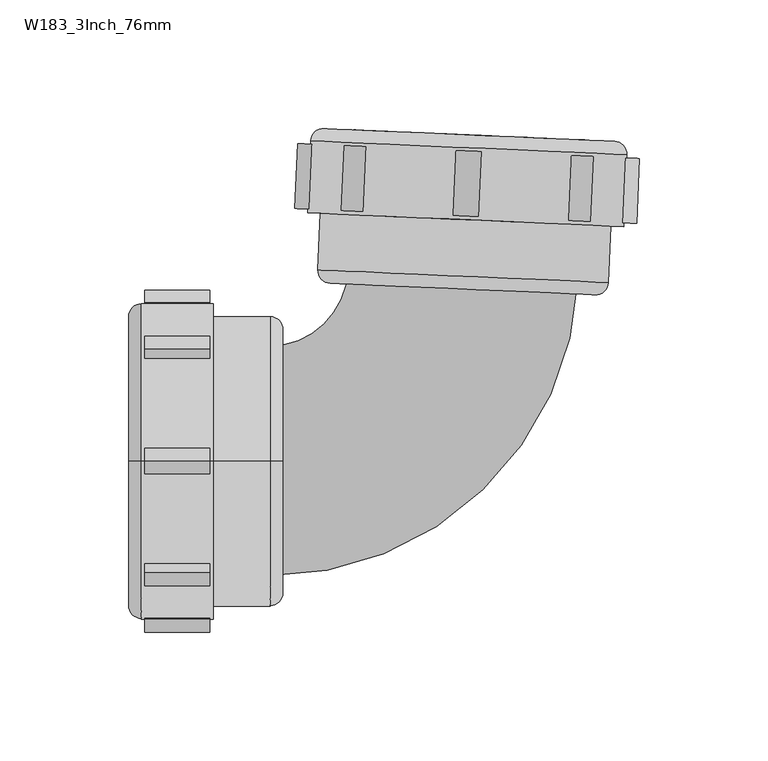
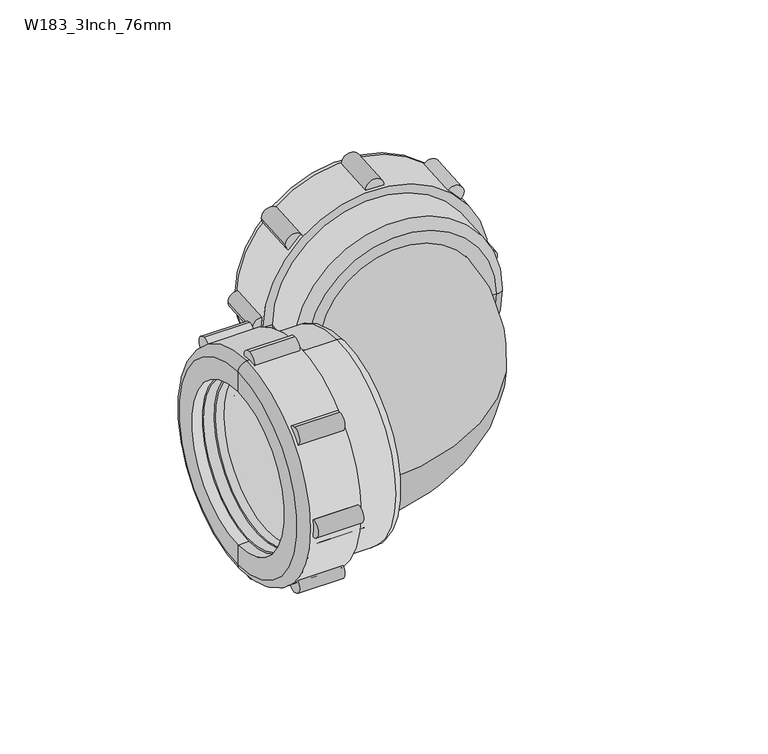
"""IFC4 building model written with IfcOpenShell, lengths in millimetres: pipe fitting geometry, Durapipe_PipeFitting_VulcatheneMechanical_92.5SweepBend_W18 : W183_3Inch_76mm."""

from ifc_helpers import new_model, si_unit, point, frame, frame_2d, origin, place, context, project, spatial, polyline, circle_curve, ellipse_curve, trimmed, segment, composite_curve, outline, extrude, source, transform, mapped, element, save
from ifc_brep_helpers import plane_surface, cylinder_surface, revolved_surface, advanced_brep


def w183_3inch_76mm_d3d50443(model_context):
    return source(origin(), model_context, "Body", "SolidModel", [
        advanced_brep(
        [(-30.6942453, 122.1178073, 35.9917352), (41.2207127, 118.9779325, -35.9917352), (36.5582498, 119.1815, -31.3248304), (-26.0317824, 121.9142398, 31.3248304), (-28.4714103, 101.7014168, 32.8804653), (37.2269305, 98.8329652, -32.8804653), (-29.5488092, 77.0249257, 32.8804653), (36.1495316, 74.1564742, -32.8804653), (-27.9946549, 76.9570698, 31.3248304), (34.5953773, 74.22433, -31.3248304), (-26.4985099, 111.2244238, 31.3248304), (36.0915223, 108.491684, -31.3248304), (-25.8627195, 111.1966646, 30.6884343), (35.4557319, 108.5194432, -30.6884343), (-26.2978607, 115.8200457, 31.3248304), (36.2921715, 113.0873058, -31.3248304), (35.6563811, 113.115065, -30.6884343), (-25.6620703, 115.7922864, 30.6884343)],
        [
            (0, 1, circle_curve(frame((5.2632337, 120.5478699, 0.0), z_axis=(0.043619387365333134, 0.9990482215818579, 0.0), x_axis=(0.7064337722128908, -0.030843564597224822, -0.7071067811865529)), 50.9)),
            (1, 2),
            (2, 3, circle_curve(frame((5.2632337, 120.5478699, 0.0), z_axis=(-0.043619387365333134, -0.9990482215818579, 0.0), x_axis=(0.7064337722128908, -0.030843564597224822, -0.7071067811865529)), 44.3)),
            (3, 0),
            (1, 0, circle_curve(frame((5.2632337, 120.5478699, 0.0), z_axis=(0.043619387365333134, 0.9990482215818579, 0.0), x_axis=(0.7064337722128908, -0.030843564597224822, -0.7071067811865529)), 50.9)),
            (3, 2, circle_curve(frame((5.2632337, 120.5478699, 0.0), z_axis=(-0.043619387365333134, -0.9990482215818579, 0.0), x_axis=(0.7064337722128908, -0.030843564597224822, -0.7071067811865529)), 44.3)),
            (0, 4),
            (4, 5, circle_curve(frame((4.3777601, 100.267191, 0.0), z_axis=(0.043619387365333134, 0.9990482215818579, 0.0), x_axis=(0.7064337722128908, -0.030843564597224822, -0.7071067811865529)), 46.5)),
            (5, 1),
            (5, 4, circle_curve(frame((4.3777601, 100.267191, 0.0), z_axis=(0.043619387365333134, 0.9990482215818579, 0.0), x_axis=(0.7064337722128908, -0.030843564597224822, -0.7071067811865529)), 46.5)),
            (6, 7, circle_curve(frame((3.3003612, 75.5906999, 0.0), z_axis=(0.043619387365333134, 0.9990482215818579, 0.0), x_axis=(0.7064337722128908, -0.030843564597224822, -0.7071067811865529)), 46.5)),
            (7, 5),
            (4, 6),
            (7, 6, circle_curve(frame((3.3003612, 75.5906999, 0.0), z_axis=(0.043619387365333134, 0.9990482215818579, 0.0), x_axis=(0.7064337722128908, -0.030843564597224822, -0.7071067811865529)), 46.5)),
            (6, 8),
            (8, 9, circle_curve(frame((3.3003612, 75.5906999, 0.0), z_axis=(0.043619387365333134, 0.9990482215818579, 0.0), x_axis=(0.7064337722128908, -0.030843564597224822, -0.7071067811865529)), 44.3)),
            (9, 7),
            (9, 8, circle_curve(frame((3.3003612, 75.5906999, 0.0), z_axis=(0.043619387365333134, 0.9990482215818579, 0.0), x_axis=(0.7064337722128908, -0.030843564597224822, -0.7071067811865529)), 44.3)),
            (8, 10),
            (10, 11, circle_curve(frame((4.7965062, 109.8580539, 0.0), z_axis=(0.043619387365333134, 0.9990482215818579, 0.0), x_axis=(0.7064337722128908, -0.030843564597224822, -0.7071067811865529)), 44.3)),
            (11, 9),
            (11, 10, circle_curve(frame((4.7965062, 109.8580539, 0.0), z_axis=(0.043619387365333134, 0.9990482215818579, 0.0), x_axis=(0.7064337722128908, -0.030843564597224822, -0.7071067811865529)), 44.3)),
            (10, 12),
            (12, 13, circle_curve(frame((4.7965062, 109.8580539, 0.0), z_axis=(0.043619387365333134, 0.9990482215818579, 0.0), x_axis=(0.7064337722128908, -0.030843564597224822, -0.7071067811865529)), 43.4)),
            (13, 11),
            (13, 12, circle_curve(frame((4.7965062, 109.8580539, 0.0), z_axis=(0.043619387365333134, 0.9990482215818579, 0.0), x_axis=(0.7064337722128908, -0.030843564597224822, -0.7071067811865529)), 43.4)),
            (14, 15, circle_curve(frame((4.9971554, 114.4536757, 0.0), z_axis=(0.043619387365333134, 0.9990482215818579, 0.0), x_axis=(0.7064337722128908, -0.030843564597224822, -0.7071067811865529)), 44.3)),
            (15, 16),
            (16, 17, circle_curve(frame((4.9971554, 114.4536757, 0.0), z_axis=(-0.043619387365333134, -0.9990482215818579, 0.0), x_axis=(0.7064337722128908, -0.030843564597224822, -0.7071067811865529)), 43.4)),
            (17, 14),
            (15, 14, circle_curve(frame((4.9971554, 114.4536757, 0.0), z_axis=(0.043619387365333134, 0.9990482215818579, 0.0), x_axis=(0.7064337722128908, -0.030843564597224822, -0.7071067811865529)), 44.3)),
            (17, 16, circle_curve(frame((4.9971554, 114.4536757, 0.0), z_axis=(-0.043619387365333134, -0.9990482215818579, 0.0), x_axis=(0.7064337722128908, -0.030843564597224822, -0.7071067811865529)), 43.4)),
            (2, 15),
            (14, 3),
            (12, 17),
            (16, 13),
        ],
        [
            plane_surface(frame((5.2632337, 120.5478699, 0.0), z_axis=(0.043619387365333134, 0.9990482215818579, 0.0), x_axis=(0.7064337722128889, -0.03084356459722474, -0.707106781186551))),
            revolved_surface(polyline([(41.2207127, 118.9779325, -35.9917352), (37.2269305, 98.8329652, -32.8804653)]), (5.4813306, 125.543111, 0.0), (-0.04361938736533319, -0.9990482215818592, 0.0)),
            cylinder_surface(frame((3.2100405, 73.522015, 0.0), z_axis=(-0.04361938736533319, -0.9990482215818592, 0.0), x_axis=(0.7064337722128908, -0.030843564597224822, -0.7071067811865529)), 46.5),
            plane_surface(frame((3.3003612, 75.5906999, 0.0), z_axis=(-0.043619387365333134, -0.9990482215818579, 0.0), x_axis=(0.7064337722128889, -0.03084356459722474, -0.707106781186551))),
            revolved_surface(polyline([(34.595377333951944, 74.2243299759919, -31.324830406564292), (36.091522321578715, 108.49168399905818, -31.324830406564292)]), (3.1479991, 72.1010335, 0.0), (-0.04361938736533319, -0.9990482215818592, 0.0)),
            plane_surface(frame((4.7965062, 109.8580539, 0.0), z_axis=(-0.043619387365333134, -0.9990482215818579, 0.0), x_axis=(0.7064337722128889, -0.03084356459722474, -0.707106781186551))),
            plane_surface(frame((4.9971554, 114.4536757, 0.0), z_axis=(0.043619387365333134, 0.9990482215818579, 0.0), x_axis=(0.7064337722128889, -0.03084356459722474, -0.707106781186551))),
            revolved_surface(polyline([(36.292171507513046, 113.0873057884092, -31.324830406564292), (36.55824977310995, 119.18150000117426, -31.324830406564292)]), (5.4813306, 125.543111, 0.0), (-0.04361938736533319, -0.9990482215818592, 0.0)),
            revolved_surface(polyline([(35.45573191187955, 108.51944319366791, -30.688434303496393), (35.65638109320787, 113.11506500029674, -30.688434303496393)]), (5.33155, 122.1125717, 0.0), (-0.04361938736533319, -0.9990482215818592, 0.0)),
        ],
        [
            (0, [[1, 2, 3, 4]]),
            (0, [[-2, 5, -4, 6]]),
            (1, [[-1, 7, 8, 9]]),
            (1, [[-5, -9, 10, -7]]),
            (2, [[11, 12, -8, 13]]),
            (2, [[-12, 14, -13, -10]]),
            (3, [[-11, 15, 16, 17]]),
            (3, [[-14, -17, 18, -15]]),
            (4, [[19, 20, 21, -16]]),
            (4, [[-19, -18, -21, 22]]),
            (5, [[-20, 23, 24, 25]]),
            (5, [[-22, -25, 26, -23]]),
            (6, [[27, 28, 29, 30]]),
            (6, [[31, -30, 32, -28]]),
            (7, [[-3, 33, -27, 34]]),
            (7, [[-6, -34, -31, -33]]),
            (8, [[35, -29, 36, -24]]),
            (8, [[-35, -26, -36, -32]]),
        ],
    ),
        advanced_brep(
        [(-57.3428696, 96.5558747, 0.0), (65.5400616, 91.1906901, 0.0), (66.7614045, 119.1640403, 0.0), (-56.1215268, 124.5292249, 0.0), (-52.3476285, 96.3377778, 0.0), (60.5448205, 91.408787, 0.0), (-50.9081887, 129.3063691, 0.0), (61.9842603, 124.3773783, 0.0), (50.4952058, 124.8790013, 0.0), (-39.4191342, 128.8047461, 0.0), (-47.6863221, 122.8596974, 0.0), (58.2127894, 118.2360424, 0.0), (56.1146969, 70.1818229, 0.0), (-49.7844146, 74.805478, 0.0), (-39.6939363, 122.5107423, 0.0), (50.2204036, 118.5849975, 0.0), (-53.307255, 74.3587169, 0.0), (59.585194, 69.4297261, 0.0), (-48.5301108, 69.1453788, 0.0), (54.371856, 64.6525819, 0.0), (2.9208726, 66.8989804, 0.0), (3.1651411, 72.4936504, 0.0)],
        [
            (0, 1, circle_curve(frame((4.098596, 93.8732824, 0.0), z_axis=(0.0436193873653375, 0.9990482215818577, 0.0), x_axis=(0.9990482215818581, -0.04361938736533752, 0.0)), 61.5)),
            (1, 2),
            (2, 3, circle_curve(frame((5.3199389, 121.8466326, 0.0), z_axis=(-0.0436193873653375, -0.9990482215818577, 0.0), x_axis=(0.9990482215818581, -0.04361938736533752, 0.0)), 61.5)),
            (3, 0),
            (1, 0, circle_curve(frame((4.098596, 93.8732824, 0.0), z_axis=(0.0436193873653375, 0.9990482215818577, 0.0), x_axis=(0.9990482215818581, -0.04361938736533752, 0.0)), 61.5)),
            (3, 2, circle_curve(frame((5.3199389, 121.8466326, 0.0), z_axis=(-0.0436193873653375, -0.9990482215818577, 0.0), x_axis=(0.9990482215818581, -0.04361938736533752, 0.0)), 61.5)),
            (4, 5, circle_curve(frame((4.098596, 93.8732824, 0.0), z_axis=(0.0436193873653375, 0.9990482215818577, 0.0), x_axis=(0.9990482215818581, -0.04361938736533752, 0.0)), 56.5)),
            (5, 1),
            (0, 4),
            (5, 4, circle_curve(frame((4.098596, 93.8732824, 0.0), z_axis=(0.0436193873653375, 0.9990482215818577, 0.0), x_axis=(0.9990482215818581, -0.04361938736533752, 0.0)), 56.5)),
            (6, 7, circle_curve(frame((5.5380358, 126.8418737, 0.0), z_axis=(0.0436193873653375, 0.9990482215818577, 0.0), x_axis=(0.9990482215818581, -0.04361938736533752, 0.0)), 56.5)),
            (7, 8),
            (8, 9, circle_curve(frame((5.5380358, 126.8418737, 0.0), z_axis=(-0.0436193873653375, -0.9990482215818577, 0.0), x_axis=(0.9990482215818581, -0.04361938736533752, 0.0)), 45.0)),
            (9, 6),
            (7, 6, circle_curve(frame((5.5380358, 126.8418737, 0.0), z_axis=(0.0436193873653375, 0.9990482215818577, 0.0), x_axis=(0.9990482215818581, -0.04361938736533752, 0.0)), 56.5)),
            (9, 8, circle_curve(frame((5.5380358, 126.8418737, 0.0), z_axis=(-0.0436193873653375, -0.9990482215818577, 0.0), x_axis=(0.9990482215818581, -0.04361938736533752, 0.0)), 45.0)),
            (2, 7, circle_curve(frame((61.7661634, 119.3821372, 0.0), z_axis=(0.0, 0.0, 1.0000000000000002), x_axis=(0.043619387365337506, 0.9990482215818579, 0.0)), 5.0)),
            (6, 3, circle_curve(frame((-51.1262857, 124.311128, 0.0), z_axis=(0.0, 0.0, 1.0000000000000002), x_axis=(0.043619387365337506, 0.9990482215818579, 0.0)), 5.0)),
            (10, 11, circle_curve(frame((5.2632337, 120.5478699, 0.0), z_axis=(0.0436193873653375, 0.9990482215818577, 0.0), x_axis=(0.9990482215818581, -0.04361938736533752, 0.0)), 53.0)),
            (11, 12),
            (12, 13, circle_curve(frame((3.1651411, 72.4936504, 0.0), z_axis=(-0.0436193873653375, -0.9990482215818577, 0.0), x_axis=(0.9990482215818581, -0.04361938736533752, 0.0)), 53.0)),
            (13, 10),
            (11, 10, circle_curve(frame((5.2632337, 120.5478699, 0.0), z_axis=(0.0436193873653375, 0.9990482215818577, 0.0), x_axis=(0.9990482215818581, -0.04361938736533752, 0.0)), 53.0)),
            (13, 12, circle_curve(frame((3.1651411, 72.4936504, 0.0), z_axis=(-0.0436193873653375, -0.9990482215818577, 0.0), x_axis=(0.9990482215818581, -0.04361938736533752, 0.0)), 53.0)),
            (14, 15, circle_curve(frame((5.2632337, 120.5478699, 0.0), z_axis=(0.0436193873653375, 0.9990482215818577, 0.0), x_axis=(0.9990482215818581, -0.04361938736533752, 0.0)), 45.0)),
            (15, 11),
            (10, 14),
            (15, 14, circle_curve(frame((5.2632337, 120.5478699, 0.0), z_axis=(0.0436193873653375, 0.9990482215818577, 0.0), x_axis=(0.9990482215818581, -0.04361938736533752, 0.0)), 45.0)),
            (8, 15),
            (14, 9),
            (16, 17, circle_curve(frame((3.1389695, 71.8942215, 0.0), z_axis=(0.0436193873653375, 0.9990482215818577, 0.0), x_axis=(0.9990482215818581, -0.04361938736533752, 0.0)), 56.5)),
            (17, 5),
            (4, 16),
            (17, 16, circle_curve(frame((3.1389695, 71.8942215, 0.0), z_axis=(0.0436193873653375, 0.9990482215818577, 0.0), x_axis=(0.9990482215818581, -0.04361938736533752, 0.0)), 56.5)),
            (18, 19, circle_curve(frame((2.9208726, 66.8989804, 0.0), z_axis=(0.0436193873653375, 0.9990482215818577, 0.0), x_axis=(0.9990482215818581, -0.04361938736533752, 0.0)), 51.5)),
            (19, 17, circle_curve(frame((54.5899529, 69.6478231, 0.0), z_axis=(0.0, 0.0, 1.0000000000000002), x_axis=(0.043619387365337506, 0.9990482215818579, 0.0)), 5.0)),
            (16, 18, circle_curve(frame((-48.3120139, 74.14062, 0.0), z_axis=(0.0, 0.0, 1.0000000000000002), x_axis=(0.043619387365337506, 0.9990482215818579, 0.0)), 5.0)),
            (19, 18, circle_curve(frame((2.9208726, 66.8989804, 0.0), z_axis=(0.0436193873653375, 0.9990482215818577, 0.0), x_axis=(0.9990482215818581, -0.04361938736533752, 0.0)), 51.5)),
            (20, 19),
            (18, 20),
            (12, 21),
            (21, 13),
        ],
        [
            cylinder_surface(frame((73.6192549, 1686.1581546, 0.0), z_axis=(-0.043619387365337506, -0.9990482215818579, 0.0), x_axis=(0.9990482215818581, -0.04361938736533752, 0.0)), 61.5),
            plane_surface(frame((4.098596, 93.8732824, 0.0), z_axis=(-0.0436193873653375, -0.9990482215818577, 0.0), x_axis=(0.9990482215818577, -0.0436193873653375, 0.0))),
            plane_surface(frame((5.5380358, 126.8418737, 0.0), z_axis=(0.0436193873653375, 0.9990482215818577, 0.0), x_axis=(0.9990482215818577, -0.0436193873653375, 0.0))),
            revolved_surface(trimmed(ellipse_curve(frame((61.7661634, 119.3821372, 0.0), z_axis=(0.0, 0.0, -1.0000000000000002), x_axis=(0.043619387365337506, 0.9990482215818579, 0.0)), 5.0, 5.0), [point((61.9842603, 124.3773783, 0.0))], [point((66.7614045, 119.1640403, 0.0))], True, "CARTESIAN"), (73.6192549, 1686.1581546, 0.0), (-0.043619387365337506, -0.9990482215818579, 0.0)),
            revolved_surface(polyline([(56.114696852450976, 70.18182286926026, 0.0), (58.21278938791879, 118.23604240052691, 0.0)]), (73.6192549, 1686.1581546, 0.0), (-0.043619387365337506, -0.9990482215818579, 0.0)),
            plane_surface(frame((5.2632337, 120.5478699, 0.0), z_axis=(-0.0436193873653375, -0.9990482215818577, 0.0), x_axis=(0.9990482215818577, -0.0436193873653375, 0.0))),
            revolved_surface(polyline([(50.220403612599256, 118.58499743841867, 0.0), (50.49520575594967, 124.87900130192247, 0.0)]), (73.6192549, 1686.1581546, 0.0), (-0.043619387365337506, -0.9990482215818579, 0.0)),
            cylinder_surface(frame((73.6192549, 1686.1581546, 0.0), z_axis=(-0.043619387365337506, -0.9990482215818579, 0.0), x_axis=(0.9990482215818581, -0.04361938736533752, 0.0)), 56.5),
            revolved_surface(trimmed(ellipse_curve(frame((54.5899529, 69.6478231, 0.0), z_axis=(0.0, 0.0, -1.0000000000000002), x_axis=(0.043619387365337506, 0.9990482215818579, 0.0)), 5.0, 5.0), [point((59.585194, 69.4297261, 0.0))], [point((54.371856, 64.6525819, 0.0))], True, "CARTESIAN"), (73.6192549, 1686.1581546, 0.0), (-0.043619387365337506, -0.9990482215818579, 0.0)),
            plane_surface(frame((2.9208726, 66.8989804, 0.0), z_axis=(-0.0436193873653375, -0.9990482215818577, 0.0), x_axis=(0.9990482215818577, -0.0436193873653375, 0.0))),
            plane_surface(frame((3.1651411, 72.4936504, 0.0), z_axis=(0.0436193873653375, 0.9990482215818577, 0.0), x_axis=(0.9990482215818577, -0.0436193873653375, 0.0))),
        ],
        [
            (0, [[1, 2, 3, 4]]),
            (0, [[5, -4, 6, -2]]),
            (1, [[7, 8, -1, 9]]),
            (1, [[10, -9, -5, -8]]),
            (2, [[11, 12, 13, 14]]),
            (2, [[15, -14, 16, -12]]),
            (3, [[-3, 17, -11, 18]]),
            (3, [[-6, -18, -15, -17]]),
            (4, [[19, 20, 21, 22]]),
            (4, [[23, -22, 24, -20]]),
            (5, [[25, 26, -19, 27]]),
            (5, [[28, -27, -23, -26]]),
            (6, [[-13, 29, -25, 30]]),
            (6, [[-16, -30, -28, -29]]),
            (7, [[31, 32, -7, 33]]),
            (7, [[34, -33, -10, -32]]),
            (8, [[35, 36, -31, 37]]),
            (8, [[38, -37, -34, -36]]),
            (9, [[39, -35, 40]]),
            (9, [[-40, -38, -39]]),
            (10, [[-21, 41, 42]]),
            (10, [[-24, -42, -41]]),
        ],
    ),
        extrude(outline(composite_curve([segment(trimmed(circle_curve(frame_2d((0.0, -5.0)), 5.0), [point((0.0, -10.0))], [point((0.0, 0.0))], False, "CARTESIAN"), True, "CONTINUOUS"), segment(trimmed(circle_curve(frame_2d((0.0, -5.0)), 5.0), [point((0.0, 0.0))], [point((0.0, -10.0))], False, "CARTESIAN"), True, "CONTINUOUS")], self_intersect=False)), frame((9.1592662, 95.1537578, -61.5), z_axis=(0.0436193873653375, 0.9990482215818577, 0.0), x_axis=(0.0, 0.0, 1.0)), (0.0, 0.0, 1.0), 25.2),
        extrude(outline(composite_curve([segment(trimmed(circle_curve(frame_2d((18.012933, 38.4870671)), 5.0), [point((18.012933, 33.4870671))], [point((18.012933, 43.4870671))], False, "CARTESIAN"), True, "CONTINUOUS"), segment(trimmed(circle_curve(frame_2d((18.012933, 38.4870671)), 5.0), [point((18.012933, 43.4870671))], [point((18.012933, 33.4870671))], False, "CARTESIAN"), True, "CONTINUOUS")], self_intersect=False)), frame((9.1592662, 95.1537578, -61.5), z_axis=(0.0436193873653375, 0.9990482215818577, 0.0), x_axis=(0.0, 0.0, 1.0)), (0.0, 0.0, 1.0), 25.2),
        extrude(outline(composite_curve([segment(trimmed(circle_curve(frame_2d((61.5, 56.5)), 5.0), [point((61.5, 51.5))], [point((61.5, 61.5))], False, "CARTESIAN"), True, "CONTINUOUS"), segment(trimmed(circle_curve(frame_2d((61.5, 56.5)), 5.0), [point((61.5, 61.5))], [point((61.5, 51.5))], False, "CARTESIAN"), True, "CONTINUOUS")], self_intersect=False)), frame((9.1592662, 95.1537578, -61.5), z_axis=(0.0436193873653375, 0.9990482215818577, 0.0), x_axis=(0.0, 0.0, 1.0)), (0.0, 0.0, 1.0), 25.2),
        extrude(outline(composite_curve([segment(trimmed(circle_curve(frame_2d((104.987067, 38.4870671)), 5.0), [point((104.987067, 33.4870671))], [point((104.987067, 43.4870671))], False, "CARTESIAN"), True, "CONTINUOUS"), segment(trimmed(circle_curve(frame_2d((104.987067, 38.4870671)), 5.0), [point((104.987067, 43.4870671))], [point((104.987067, 33.4870671))], False, "CARTESIAN"), True, "CONTINUOUS")], self_intersect=False)), frame((9.1592662, 95.1537578, -61.5), z_axis=(0.0436193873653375, 0.9990482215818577, 0.0), x_axis=(0.0, 0.0, 1.0)), (0.0, 0.0, 1.0), 25.2),
        extrude(outline(composite_curve([segment(trimmed(circle_curve(frame_2d((123.0, -5.0)), 5.0), [point((123.0, -10.0))], [point((123.0, 0.0))], False, "CARTESIAN"), True, "CONTINUOUS"), segment(trimmed(circle_curve(frame_2d((123.0, -5.0)), 5.0), [point((123.0, 0.0))], [point((123.0, -10.0))], False, "CARTESIAN"), True, "CONTINUOUS")], self_intersect=False)), frame((9.1592662, 95.1537578, -61.5), z_axis=(0.0436193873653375, 0.9990482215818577, 0.0), x_axis=(0.0, 0.0, 1.0)), (0.0, 0.0, 1.0), 25.2),
        extrude(outline(composite_curve([segment(trimmed(circle_curve(frame_2d((104.987067, -48.487067)), 5.0), [point((104.987067, -53.487067))], [point((104.987067, -43.4870671))], False, "CARTESIAN"), True, "CONTINUOUS"), segment(trimmed(circle_curve(frame_2d((104.987067, -48.487067)), 5.0), [point((104.987067, -43.4870671))], [point((104.987067, -53.487067))], False, "CARTESIAN"), True, "CONTINUOUS")], self_intersect=False)), frame((9.1592662, 95.1537578, -61.5), z_axis=(0.0436193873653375, 0.9990482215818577, 0.0), x_axis=(0.0, 0.0, 1.0)), (0.0, 0.0, 1.0), 25.2),
        extrude(outline(composite_curve([segment(trimmed(circle_curve(frame_2d((61.5, -66.5)), 5.0), [point((61.5, -71.5))], [point((61.5, -61.5))], False, "CARTESIAN"), True, "CONTINUOUS"), segment(trimmed(circle_curve(frame_2d((61.5, -66.5)), 5.0), [point((61.5, -61.5))], [point((61.5, -71.5))], False, "CARTESIAN"), True, "CONTINUOUS")], self_intersect=False)), frame((9.1592662, 95.1537578, -61.5), z_axis=(0.0436193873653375, 0.9990482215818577, 0.0), x_axis=(0.0, 0.0, 1.0)), (0.0, 0.0, 1.0), 25.2),
        extrude(outline(composite_curve([segment(trimmed(circle_curve(frame_2d((18.012933, -48.487067)), 5.0), [point((18.012933, -53.487067))], [point((18.012933, -43.4870671))], False, "CARTESIAN"), True, "CONTINUOUS"), segment(trimmed(circle_curve(frame_2d((18.012933, -48.487067)), 5.0), [point((18.012933, -43.4870671))], [point((18.012933, -53.487067))], False, "CARTESIAN"), True, "CONTINUOUS")], self_intersect=False)), frame((9.1592662, 95.1537578, -61.5), z_axis=(0.0436193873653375, 0.9990482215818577, 0.0), x_axis=(0.0, 0.0, 1.0)), (0.0, 0.0, 1.0), 25.2),
        advanced_brep(
        [(-120.6627141, -35.9917352, -35.9917352), (-120.6627141, 35.9917352, 35.9917352), (-120.6627141, 31.3248304, 31.3248304), (-120.6627141, -31.3248304, -31.3248304), (-100.3627141, -32.8804653, -32.8804653), (-100.3627141, 32.8804653, 32.8804653), (-75.6627141, -32.8804653, -32.8804653), (-75.6627141, 32.8804653, 32.8804653), (-75.6627141, -31.3248304, -31.3248304), (-75.6627141, 31.3248304, 31.3248304), (-109.9627141, -31.3248304, -31.3248304), (-109.9627141, 31.3248304, 31.3248304), (-109.9627141, -30.6884343, -30.6884343), (-109.9627141, 30.6884343, 30.6884343), (-114.5627141, -31.3248304, -31.3248304), (-114.5627141, 31.3248304, 31.3248304), (-114.5627141, 30.6884343, 30.6884343), (-114.5627141, -30.6884343, -30.6884343)],
        [
            (0, 1, circle_curve(frame((-120.6627141, 0.0, 0.0), z_axis=(-1.0, 0.0, 0.0), x_axis=(0.0, 0.7071067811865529, 0.7071067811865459)), 50.9)),
            (1, 2),
            (2, 3, circle_curve(frame((-120.6627141, 0.0, 0.0), z_axis=(1.0, 0.0, 0.0), x_axis=(0.0, 0.7071067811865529, 0.7071067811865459)), 44.3)),
            (3, 0),
            (1, 0, circle_curve(frame((-120.6627141, 0.0, 0.0), z_axis=(-1.0, 0.0, 0.0), x_axis=(0.0, 0.7071067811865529, 0.7071067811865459)), 50.9)),
            (3, 2, circle_curve(frame((-120.6627141, 0.0, 0.0), z_axis=(1.0, 0.0, 0.0), x_axis=(0.0, 0.7071067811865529, 0.7071067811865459)), 44.3)),
            (0, 4),
            (4, 5, circle_curve(frame((-100.3627141, 0.0, 0.0), z_axis=(-1.0, 0.0, 0.0), x_axis=(0.0, 0.7071067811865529, 0.7071067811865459)), 46.5)),
            (5, 1),
            (5, 4, circle_curve(frame((-100.3627141, 0.0, 0.0), z_axis=(-1.0, 0.0, 0.0), x_axis=(0.0, 0.7071067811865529, 0.7071067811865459)), 46.5)),
            (6, 7, circle_curve(frame((-75.6627141, 0.0, 0.0), z_axis=(-1.0, 0.0, 0.0), x_axis=(0.0, 0.7071067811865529, 0.7071067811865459)), 46.5)),
            (7, 5),
            (4, 6),
            (7, 6, circle_curve(frame((-75.6627141, 0.0, 0.0), z_axis=(-1.0, 0.0, 0.0), x_axis=(0.0, 0.7071067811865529, 0.7071067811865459)), 46.5)),
            (6, 8),
            (8, 9, circle_curve(frame((-75.6627141, 0.0, 0.0), z_axis=(-1.0, 0.0, 0.0), x_axis=(0.0, 0.7071067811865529, 0.7071067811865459)), 44.3)),
            (9, 7),
            (9, 8, circle_curve(frame((-75.6627141, 0.0, 0.0), z_axis=(-1.0, 0.0, 0.0), x_axis=(0.0, 0.7071067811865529, 0.7071067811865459)), 44.3)),
            (8, 10),
            (10, 11, circle_curve(frame((-109.9627141, 0.0, 0.0), z_axis=(-1.0, 0.0, 0.0), x_axis=(0.0, 0.7071067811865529, 0.7071067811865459)), 44.3)),
            (11, 9),
            (11, 10, circle_curve(frame((-109.9627141, 0.0, 0.0), z_axis=(-1.0, 0.0, 0.0), x_axis=(0.0, 0.7071067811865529, 0.7071067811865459)), 44.3)),
            (10, 12),
            (12, 13, circle_curve(frame((-109.9627141, 0.0, 0.0), z_axis=(-1.0, 0.0, 0.0), x_axis=(0.0, 0.7071067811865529, 0.7071067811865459)), 43.4)),
            (13, 11),
            (13, 12, circle_curve(frame((-109.9627141, 0.0, 0.0), z_axis=(-1.0, 0.0, 0.0), x_axis=(0.0, 0.7071067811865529, 0.7071067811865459)), 43.4)),
            (14, 15, circle_curve(frame((-114.5627141, 0.0, 0.0), z_axis=(-1.0, 0.0, 0.0), x_axis=(0.0, 0.7071067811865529, 0.7071067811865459)), 44.3)),
            (15, 16),
            (16, 17, circle_curve(frame((-114.5627141, 0.0, 0.0), z_axis=(1.0, 0.0, 0.0), x_axis=(0.0, 0.7071067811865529, 0.7071067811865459)), 43.4)),
            (17, 14),
            (15, 14, circle_curve(frame((-114.5627141, 0.0, 0.0), z_axis=(-1.0, 0.0, 0.0), x_axis=(0.0, 0.7071067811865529, 0.7071067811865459)), 44.3)),
            (17, 16, circle_curve(frame((-114.5627141, 0.0, 0.0), z_axis=(1.0, 0.0, 0.0), x_axis=(0.0, 0.7071067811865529, 0.7071067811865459)), 43.4)),
            (2, 15),
            (14, 3),
            (12, 17),
            (16, 13),
        ],
        [
            plane_surface(frame((-120.6627141, 0.0, 0.0), z_axis=(-1.0, 0.0, 0.0), x_axis=(0.0, 0.707106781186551, 0.707106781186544))),
            revolved_surface(polyline([(-120.6627141, 35.9917352, 35.9917352), (-100.3627141, 32.8804653, 32.8804653)]), (-125.6627141, 0.0, 0.0), (1.0000000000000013, 0.0, 0.0)),
            cylinder_surface(frame((-73.5920584, 0.0, 0.0), z_axis=(1.0000000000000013, 0.0, 0.0), x_axis=(0.0, 0.7071067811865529, 0.7071067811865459)), 46.5),
            plane_surface(frame((-75.6627141, 0.0, 0.0), z_axis=(1.0, 0.0, 0.0), x_axis=(0.0, 0.707106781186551, 0.707106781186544))),
            revolved_surface(polyline([(-75.66271410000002, 31.324830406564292, 31.324830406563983), (-109.9627141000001, 31.324830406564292, 31.324830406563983)]), (-72.1697231, 0.0, 0.0), (1.0000000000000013, 0.0, 0.0)),
            plane_surface(frame((-109.9627141, 0.0, 0.0), z_axis=(1.0, 0.0, 0.0), x_axis=(0.0, 0.707106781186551, 0.707106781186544))),
            plane_surface(frame((-114.5627141, 0.0, 0.0), z_axis=(-1.0, 0.0, 0.0), x_axis=(0.0, 0.707106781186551, 0.707106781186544))),
            revolved_surface(polyline([(-114.56271409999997, 31.324830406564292, 31.324830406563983), (-120.66271409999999, 31.324830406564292, 31.324830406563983)]), (-125.6627141, 0.0, 0.0), (1.0000000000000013, 0.0, 0.0)),
            revolved_surface(polyline([(-109.96271409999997, 30.688434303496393, 30.68843430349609), (-114.56271409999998, 30.688434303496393, 30.68843430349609)]), (-122.2289065, 0.0, 0.0), (1.0000000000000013, 0.0, 0.0)),
        ],
        [
            (0, [[1, 2, 3, 4]]),
            (0, [[-2, 5, -4, 6]]),
            (1, [[-1, 7, 8, 9]]),
            (1, [[-5, -9, 10, -7]]),
            (2, [[11, 12, -8, 13]]),
            (2, [[-12, 14, -13, -10]]),
            (3, [[-11, 15, 16, 17]]),
            (3, [[-14, -17, 18, -15]]),
            (4, [[19, 20, 21, -16]]),
            (4, [[-19, -18, -21, 22]]),
            (5, [[-20, 23, 24, 25]]),
            (5, [[-22, -25, 26, -23]]),
            (6, [[27, 28, 29, 30]]),
            (6, [[31, -30, 32, -28]]),
            (7, [[-3, 33, -27, 34]]),
            (7, [[-6, -34, -31, -33]]),
            (8, [[35, -29, 36, -24]]),
            (8, [[-35, -26, -36, -32]]),
        ],
    ),
        advanced_brep(
        [(-93.9627141, 0.0, -61.5), (-93.9627141, 0.0, 61.5), (-121.9627141, 0.0, 61.5), (-121.9627141, 0.0, -61.5), (-93.9627141, 0.0, -56.5), (-93.9627141, 0.0, 56.5), (-126.9627141, 0.0, -56.5), (-126.9627141, 0.0, 56.5), (-126.9627141, 0.0, 45.0), (-126.9627141, 0.0, -45.0), (-120.6627141, 0.0, -53.0), (-120.6627141, 0.0, 53.0), (-72.5627141, 0.0, 53.0), (-72.5627141, 0.0, -53.0), (-120.6627141, 0.0, -45.0), (-120.6627141, 0.0, 45.0), (-71.9627141, 0.0, -56.5), (-71.9627141, 0.0, 56.5), (-66.9627141, 0.0, -51.5), (-66.9627141, 0.0, 51.5), (-66.9627141, 0.0, 0.0), (-72.5627141, 0.0, 0.0)],
        [
            (0, 1, circle_curve(frame((-93.9627141, 0.0, 0.0), z_axis=(-1.0, 0.0, 0.0), x_axis=(0.0, 0.0, 1.0000000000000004)), 61.5)),
            (1, 2),
            (2, 3, circle_curve(frame((-121.9627141, 0.0, 0.0), z_axis=(1.0, 0.0, 0.0), x_axis=(0.0, 0.0, 1.0000000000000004)), 61.5)),
            (3, 0),
            (1, 0, circle_curve(frame((-93.9627141, 0.0, 0.0), z_axis=(-1.0, 0.0, 0.0), x_axis=(0.0, 0.0, 1.0000000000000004)), 61.5)),
            (3, 2, circle_curve(frame((-121.9627141, 0.0, 0.0), z_axis=(1.0, 0.0, 0.0), x_axis=(0.0, 0.0, 1.0000000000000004)), 61.5)),
            (4, 5, circle_curve(frame((-93.9627141, 0.0, 0.0), z_axis=(-1.0, 0.0, 0.0), x_axis=(0.0, 0.0, 1.0000000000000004)), 56.5)),
            (5, 1),
            (0, 4),
            (5, 4, circle_curve(frame((-93.9627141, 0.0, 0.0), z_axis=(-1.0, 0.0, 0.0), x_axis=(0.0, 0.0, 1.0000000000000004)), 56.5)),
            (6, 7, circle_curve(frame((-126.9627141, 0.0, 0.0), z_axis=(-1.0, 0.0, 0.0), x_axis=(0.0, 0.0, 1.0000000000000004)), 56.5)),
            (7, 8),
            (8, 9, circle_curve(frame((-126.9627141, 0.0, 0.0), z_axis=(1.0, 0.0, 0.0), x_axis=(0.0, 0.0, 1.0000000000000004)), 45.0)),
            (9, 6),
            (7, 6, circle_curve(frame((-126.9627141, 0.0, 0.0), z_axis=(-1.0, 0.0, 0.0), x_axis=(0.0, 0.0, 1.0000000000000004)), 56.5)),
            (9, 8, circle_curve(frame((-126.9627141, 0.0, 0.0), z_axis=(1.0, 0.0, 0.0), x_axis=(0.0, 0.0, 1.0000000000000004)), 45.0)),
            (2, 7, circle_curve(frame((-121.9627141, 0.0, 56.5), z_axis=(0.0, -1.0000000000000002, 0.0), x_axis=(-1.0000000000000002, 0.0, 0.0)), 5.0)),
            (6, 3, circle_curve(frame((-121.9627141, 0.0, -56.5), z_axis=(0.0, -1.0000000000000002, 0.0), x_axis=(-1.0000000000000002, 0.0, 0.0)), 5.0)),
            (10, 11, circle_curve(frame((-120.6627141, 0.0, 0.0), z_axis=(-1.0, 0.0, 0.0), x_axis=(0.0, 0.0, 1.0000000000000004)), 53.0)),
            (11, 12),
            (12, 13, circle_curve(frame((-72.5627141, 0.0, 0.0), z_axis=(1.0, 0.0, 0.0), x_axis=(0.0, 0.0, 1.0000000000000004)), 53.0)),
            (13, 10),
            (11, 10, circle_curve(frame((-120.6627141, 0.0, 0.0), z_axis=(-1.0, 0.0, 0.0), x_axis=(0.0, 0.0, 1.0000000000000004)), 53.0)),
            (13, 12, circle_curve(frame((-72.5627141, 0.0, 0.0), z_axis=(1.0, 0.0, 0.0), x_axis=(0.0, 0.0, 1.0000000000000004)), 53.0)),
            (14, 15, circle_curve(frame((-120.6627141, 0.0, 0.0), z_axis=(-1.0, 0.0, 0.0), x_axis=(0.0, 0.0, 1.0000000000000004)), 45.0)),
            (15, 11),
            (10, 14),
            (15, 14, circle_curve(frame((-120.6627141, 0.0, 0.0), z_axis=(-1.0, 0.0, 0.0), x_axis=(0.0, 0.0, 1.0000000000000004)), 45.0)),
            (8, 15),
            (14, 9),
            (16, 17, circle_curve(frame((-71.9627141, 0.0, 0.0), z_axis=(-1.0, 0.0, 0.0), x_axis=(0.0, 0.0, 1.0000000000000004)), 56.5)),
            (17, 5),
            (4, 16),
            (17, 16, circle_curve(frame((-71.9627141, 0.0, 0.0), z_axis=(-1.0, 0.0, 0.0), x_axis=(0.0, 0.0, 1.0000000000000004)), 56.5)),
            (18, 19, circle_curve(frame((-66.9627141, 0.0, 0.0), z_axis=(-1.0, 0.0, 0.0), x_axis=(0.0, 0.0, 1.0000000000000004)), 51.5)),
            (19, 17, circle_curve(frame((-71.9627141, 0.0, 51.5), z_axis=(0.0, -1.0000000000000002, 0.0), x_axis=(-1.0000000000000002, 0.0, 0.0)), 5.0)),
            (16, 18, circle_curve(frame((-71.9627141, 0.0, -51.5), z_axis=(0.0, -1.0000000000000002, 0.0), x_axis=(-1.0000000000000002, 0.0, 0.0)), 5.0)),
            (19, 18, circle_curve(frame((-66.9627141, 0.0, 0.0), z_axis=(-1.0, 0.0, 0.0), x_axis=(0.0, 0.0, 1.0000000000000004)), 51.5)),
            (20, 19),
            (18, 20),
            (12, 21),
            (21, 13),
        ],
        [
            cylinder_surface(frame((-1687.7645324, 0.0, 0.0), z_axis=(1.0000000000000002, 0.0, 0.0), x_axis=(0.0, 0.0, 1.0000000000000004)), 61.5),
            plane_surface(frame((-93.9627141, 0.0, 0.0), z_axis=(1.0, 0.0, 0.0), x_axis=(0.0, 0.0, 1.0))),
            plane_surface(frame((-126.9627141, 0.0, 0.0), z_axis=(-1.0, 0.0, 0.0), x_axis=(0.0, 0.0, 1.0))),
            revolved_surface(trimmed(ellipse_curve(frame((-121.9627141, 0.0, 56.5), z_axis=(0.0, 1.0000000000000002, 0.0), x_axis=(-1.0000000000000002, 0.0, 0.0)), 5.0, 5.0), [point((-126.9627141, 0.0, 56.5))], [point((-121.9627141, 0.0, 61.5))], True, "CARTESIAN"), (-1687.7645324, 0.0, 0.0), (1.0000000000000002, 0.0, 0.0)),
            revolved_surface(polyline([(-72.56271409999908, 0.0, 53.00000000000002), (-120.662714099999, 0.0, 53.00000000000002)]), (-1687.7645324, 0.0, 0.0), (1.0000000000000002, 0.0, 0.0)),
            plane_surface(frame((-120.6627141, 0.0, 0.0), z_axis=(1.0, 0.0, 0.0), x_axis=(0.0, 0.0, 1.0))),
            revolved_surface(polyline([(-120.662714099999, 0.0, 45.00000000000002), (-126.96271409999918, 0.0, 45.00000000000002)]), (-1687.7645324, 0.0, 0.0), (1.0000000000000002, 0.0, 0.0)),
            cylinder_surface(frame((-1687.7645324, 0.0, 0.0), z_axis=(1.0000000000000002, 0.0, 0.0), x_axis=(0.0, 0.0, 1.0000000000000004)), 56.5),
            revolved_surface(trimmed(ellipse_curve(frame((-71.9627141, 0.0, 51.5), z_axis=(0.0, 1.0000000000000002, 0.0), x_axis=(-1.0000000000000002, 0.0, 0.0)), 5.0, 5.0), [point((-71.9627141, 0.0, 56.5))], [point((-66.9627141, 0.0, 51.5))], True, "CARTESIAN"), (-1687.7645324, 0.0, 0.0), (1.0000000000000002, 0.0, 0.0)),
            plane_surface(frame((-66.9627141, 0.0, 0.0), z_axis=(1.0, 0.0, 0.0), x_axis=(0.0, 0.0, 1.0))),
            plane_surface(frame((-72.5627141, 0.0, 0.0), z_axis=(-1.0, 0.0, 0.0), x_axis=(0.0, 0.0, 1.0))),
        ],
        [
            (0, [[1, 2, 3, 4]]),
            (0, [[5, -4, 6, -2]]),
            (1, [[7, 8, -1, 9]]),
            (1, [[10, -9, -5, -8]]),
            (2, [[11, 12, 13, 14]]),
            (2, [[15, -14, 16, -12]]),
            (3, [[-3, 17, -11, 18]]),
            (3, [[-6, -18, -15, -17]]),
            (4, [[19, 20, 21, 22]]),
            (4, [[23, -22, 24, -20]]),
            (5, [[25, 26, -19, 27]]),
            (5, [[28, -27, -23, -26]]),
            (6, [[-13, 29, -25, 30]]),
            (6, [[-16, -30, -28, -29]]),
            (7, [[31, 32, -7, 33]]),
            (7, [[34, -33, -10, -32]]),
            (8, [[35, 36, -31, 37]]),
            (8, [[38, -37, -34, -36]]),
            (9, [[39, -35, 40]]),
            (9, [[-40, -38, -39]]),
            (10, [[-21, 41, 42]]),
            (10, [[-24, -42, -41]]),
        ],
    ),
        extrude(outline(composite_curve([segment(trimmed(circle_curve(frame_2d((61.5, 0.0)), 5.0), [point((61.5, -5.0))], [point((61.5, 5.0))], False, "CARTESIAN"), True, "CONTINUOUS"), segment(trimmed(circle_curve(frame_2d((61.5, 0.0)), 5.0), [point((61.5, 5.0))], [point((61.5, -5.0))], False, "CARTESIAN"), True, "CONTINUOUS")], self_intersect=False)), frame((-120.6627141, 0.0, 0.0), z_axis=(1.0, 0.0, 0.0), x_axis=(0.0, 1.0, 0.0)), (0.0, 0.0, 1.0), 25.2),
        extrude(outline(composite_curve([segment(trimmed(circle_curve(frame_2d((43.487067, 43.487067)), 5.0), [point((43.487067, 38.487067))], [point((43.487067, 48.487067))], False, "CARTESIAN"), True, "CONTINUOUS"), segment(trimmed(circle_curve(frame_2d((43.487067, 43.487067)), 5.0), [point((43.487067, 48.487067))], [point((43.487067, 38.487067))], False, "CARTESIAN"), True, "CONTINUOUS")], self_intersect=False)), frame((-120.6627141, 0.0, 0.0), z_axis=(1.0, 0.0, 0.0), x_axis=(0.0, 1.0, 0.0)), (0.0, 0.0, 1.0), 25.2),
        extrude(outline(composite_curve([segment(trimmed(circle_curve(frame_2d((0.0, 61.5)), 5.0), [point((0.0, 56.5))], [point((0.0, 66.5))], False, "CARTESIAN"), True, "CONTINUOUS"), segment(trimmed(circle_curve(frame_2d((0.0, 61.5)), 5.0), [point((0.0, 66.5))], [point((0.0, 56.5))], False, "CARTESIAN"), True, "CONTINUOUS")], self_intersect=False)), frame((-120.6627141, 0.0, 0.0), z_axis=(1.0, 0.0, 0.0), x_axis=(0.0, 1.0, 0.0)), (0.0, 0.0, 1.0), 25.2),
        extrude(outline(composite_curve([segment(trimmed(circle_curve(frame_2d((-43.487067, 43.487067)), 5.0), [point((-43.487067, 38.487067))], [point((-43.487067, 48.487067))], False, "CARTESIAN"), True, "CONTINUOUS"), segment(trimmed(circle_curve(frame_2d((-43.487067, 43.487067)), 5.0), [point((-43.487067, 48.487067))], [point((-43.487067, 38.487067))], False, "CARTESIAN"), True, "CONTINUOUS")], self_intersect=False)), frame((-120.6627141, 0.0, 0.0), z_axis=(1.0, 0.0, 0.0), x_axis=(0.0, 1.0, 0.0)), (0.0, 0.0, 1.0), 25.2),
        extrude(outline(composite_curve([segment(trimmed(circle_curve(frame_2d((-61.5, 0.0)), 5.0), [point((-61.5, -5.0))], [point((-61.5, 5.0))], False, "CARTESIAN"), True, "CONTINUOUS"), segment(trimmed(circle_curve(frame_2d((-61.5, 0.0)), 5.0), [point((-61.5, 5.0))], [point((-61.5, -5.0))], False, "CARTESIAN"), True, "CONTINUOUS")], self_intersect=False)), frame((-120.6627141, 0.0, 0.0), z_axis=(1.0, 0.0, 0.0), x_axis=(0.0, 1.0, 0.0)), (0.0, 0.0, 1.0), 25.2),
        extrude(outline(composite_curve([segment(trimmed(circle_curve(frame_2d((-43.487067, -43.487067)), 5.0), [point((-43.487067, -48.487067))], [point((-43.487067, -38.487067))], False, "CARTESIAN"), True, "CONTINUOUS"), segment(trimmed(circle_curve(frame_2d((-43.487067, -43.487067)), 5.0), [point((-43.487067, -38.487067))], [point((-43.487067, -48.487067))], False, "CARTESIAN"), True, "CONTINUOUS")], self_intersect=False)), frame((-120.6627141, 0.0, 0.0), z_axis=(1.0, 0.0, 0.0), x_axis=(0.0, 1.0, 0.0)), (0.0, 0.0, 1.0), 25.2),
        extrude(outline(composite_curve([segment(trimmed(circle_curve(frame_2d((0.0, -61.5)), 5.0), [point((0.0, -66.5))], [point((0.0, -56.5))], False, "CARTESIAN"), True, "CONTINUOUS"), segment(trimmed(circle_curve(frame_2d((0.0, -61.5)), 5.0), [point((0.0, -56.5))], [point((0.0, -66.5))], False, "CARTESIAN"), True, "CONTINUOUS")], self_intersect=False)), frame((-120.6627141, 0.0, 0.0), z_axis=(1.0, 0.0, 0.0), x_axis=(0.0, 1.0, 0.0)), (0.0, 0.0, 1.0), 25.2),
        extrude(outline(composite_curve([segment(trimmed(circle_curve(frame_2d((43.487067, -43.487067)), 5.0), [point((43.487067, -48.487067))], [point((43.487067, -38.487067))], False, "CARTESIAN"), True, "CONTINUOUS"), segment(trimmed(circle_curve(frame_2d((43.487067, -43.487067)), 5.0), [point((43.487067, -38.487067))], [point((43.487067, -48.487067))], False, "CARTESIAN"), True, "CONTINUOUS")], self_intersect=False)), frame((-120.6627141, 0.0, 0.0), z_axis=(1.0, 0.0, 0.0), x_axis=(0.0, 1.0, 0.0)), (0.0, 0.0, 1.0), 25.2),
        advanced_brep(
        [(-72.5627141, -44.65, 0.0), (-72.5627141, 44.65, 0.0), (47.7726442, 70.5460448, 0.0), (-41.442362, 74.4412561, 0.0)],
        [
            (0, 1, circle_curve(frame((-72.5627141, 0.0, 0.0), z_axis=(-1.0, 0.0, 0.0), x_axis=(0.0, 1.0, 0.0)), 44.65)),
            (1, 0, circle_curve(frame((-72.5627141, 0.0, 0.0), z_axis=(-1.0, 0.0, 0.0), x_axis=(0.0, 1.0, 0.0)), 44.65)),
            (2, 3, circle_curve(frame((3.1651411, 72.4936504, 0.0), z_axis=(0.0436193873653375, 0.9990482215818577, 0.0), x_axis=(-0.9990482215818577, 0.0436193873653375, 0.0)), 44.65)),
            (3, 2, circle_curve(frame((3.1651411, 72.4936504, 0.0), z_axis=(0.0436193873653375, 0.9990482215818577, 0.0), x_axis=(-0.9990482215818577, 0.0436193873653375, 0.0)), 44.65)),
            (3, 1, circle_curve(frame((-72.5627141, 75.8, 0.0), z_axis=(0.0, 0.0, -1.0), x_axis=(0.0, -1.0, 0.0)), 31.15)),
            (0, 2, circle_curve(frame((-72.5627141, 75.8, 0.0), z_axis=(0.0, 0.0, 1.0), x_axis=(0.0, -1.0, 0.0)), 120.45)),
        ],
        [
            plane_surface(frame((-72.5627141, 0.0, 0.0), z_axis=(-1.0, 0.0, 0.0), x_axis=(0.0, 0.0, 1.0))),
            plane_surface(frame((3.1651411, 72.4936504, 0.0), z_axis=(0.0436193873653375, 0.9990482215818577, 0.0), x_axis=(0.0, 0.0, 1.0))),
            revolved_surface(trimmed(ellipse_curve(frame((-72.5627141, 0.0, 0.0), z_axis=(-1.0, 0.0, 0.0), x_axis=(0.0, 1.0, 0.0)), 44.65, 44.65), [point((-72.5627141, -44.65, 0.0))], [point((-72.5627141, 44.65, 0.0))], True, "CARTESIAN"), (-72.5627141, 75.8, 0.0), (0.0, 0.0, 1.0)),
            revolved_surface(trimmed(ellipse_curve(frame((-72.5627141, 0.0, 0.0), z_axis=(-1.0, 0.0, 0.0), x_axis=(0.0, 1.0, 0.0)), 44.65, 44.65), [point((-72.5627141, 44.65, 0.0))], [point((-72.5627141, -44.65, 0.0))], True, "CARTESIAN"), (-72.5627141, 75.8, 0.0), (0.0, 0.0, 1.0)),
        ],
        [
            (0, [[1, 2]]),
            (1, [[3, 4]]),
            (2, [[5, -1, 6, -4]]),
            (3, [[-6, -2, -5, -3]]),
        ],
    ),
    ])


if __name__ == "__main__":
    model = new_model("IFC4")
    model_context = context("Model", 3, world=origin())
    ifc_project = project(units=[si_unit("LENGTHUNIT", "METRE", prefix="MILLI")], contexts=[model_context])
    site = spatial("IfcSite", under=ifc_project)
    building = spatial("IfcBuilding", under=site)
    placement = place(None, origin())
    w183_3inch_76mm_shape = w183_3inch_76mm_d3d50443(model_context)
    element("IfcPipeFitting", 1, ObjectType="Durapipe_PipeFitting_VulcatheneMechanical_92.5SweepBend_W18 : W183_3Inch_76mm", at=placement, inside=building, context=model_context, shape_type="MappedRepresentation", body=[
        mapped(w183_3inch_76mm_shape, transform((0.0, 0.0, 0.0), x_axis=(1.0, 0.0, 0.0), y_axis=(0.0, 1.0, 0.0), z_axis=(0.0, 0.0, 1.0))),
    ])
    save(model, "model.ifc")
